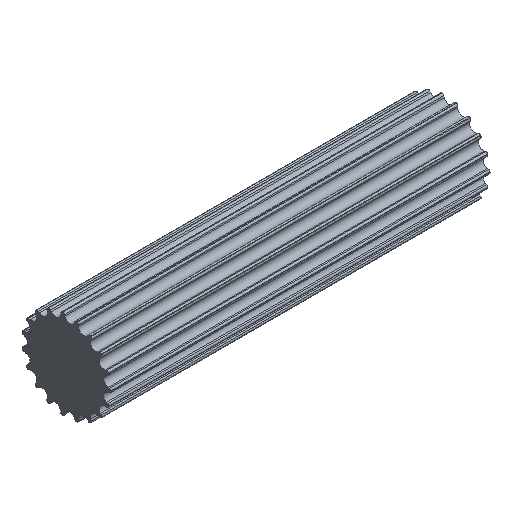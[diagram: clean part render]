
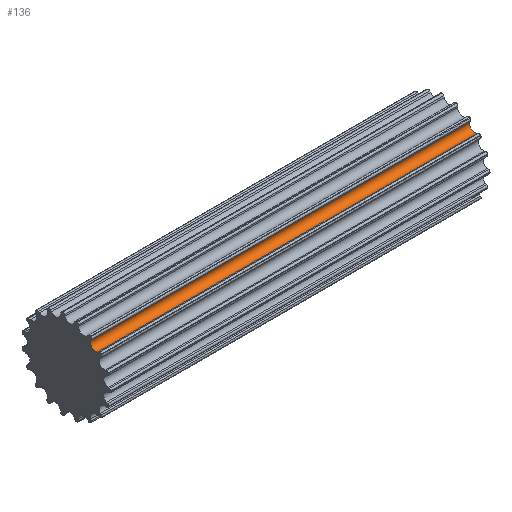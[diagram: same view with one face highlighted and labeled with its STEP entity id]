
A CAD part, isometric view. The second image highlights one B-rep face of the part: STEP entity #136.
In plain terms, the highlighted cylindrical face has radius 2.675 mm (diameter 5.35 mm), a partial arc.
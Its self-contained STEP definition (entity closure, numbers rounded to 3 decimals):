
#136 = ADVANCED_FACE( '', ( #314 ), #315, .F. );
#314 = FACE_OUTER_BOUND( '', #546, .T. );
#315 = CYLINDRICAL_SURFACE( '', #547, 2.675 );
#546 = EDGE_LOOP( '', ( #1303, #1304, #1305, #1306 ) );
#547 = AXIS2_PLACEMENT_3D( '', #1307, #1308, #1309 );
#1303 = ORIENTED_EDGE( '', *, *, #1853, .T. );
#1304 = ORIENTED_EDGE( '', *, *, #1981, .F. );
#1305 = ORIENTED_EDGE( '', *, *, #1768, .F. );
#1306 = ORIENTED_EDGE( '', *, *, #1980, .T. );
#1307 = CARTESIAN_POINT( '', ( 0., -15.52, 16.859 ) );
#1308 = DIRECTION( '', ( -1., 0., 0. ) );
#1309 = DIRECTION( '', ( 0., 0.736, 0.677 ) );
#1768 = EDGE_CURVE( '', #2186, #2188, #2189, .T. );
#1853 = EDGE_CURVE( '', #2352, #2350, #2353, .T. );
#1980 = EDGE_CURVE( '', #2186, #2352, #2550, .T. );
#1981 = EDGE_CURVE( '', #2188, #2350, #2551, .T. );
#2186 = VERTEX_POINT( '', #2785 );
#2188 = VERTEX_POINT( '', #2788 );
#2189 = CIRCLE( '', #2789, 2.675 );
#2350 = VERTEX_POINT( '', #2981 );
#2352 = VERTEX_POINT( '', #2984 );
#2353 = CIRCLE( '', #2985, 2.675 );
#2550 = LINE( '', #3260, #3261 );
#2551 = LINE( '', #3262, #3263 );
#2785 = CARTESIAN_POINT( '', ( 0., -16.739, 14.478 ) );
#2788 = CARTESIAN_POINT( '', ( 0., -13.046, 17.877 ) );
#2789 = AXIS2_PLACEMENT_3D( '', #3540, #3541, #3542 );
#2981 = CARTESIAN_POINT( '', ( 200., -13.046, 17.877 ) );
#2984 = CARTESIAN_POINT( '', ( 200., -16.739, 14.478 ) );
#2985 = AXIS2_PLACEMENT_3D( '', #3731, #3732, #3733 );
#3260 = CARTESIAN_POINT( '', ( 0., -16.739, 14.478 ) );
#3261 = VECTOR( '', #3956, 1000. );
#3262 = CARTESIAN_POINT( '', ( 0., -13.046, 17.877 ) );
#3263 = VECTOR( '', #3957, 1000. );
#3540 = CARTESIAN_POINT( '', ( 0., -15.52, 16.859 ) );
#3541 = DIRECTION( '', ( 1., 0., 0. ) );
#3542 = DIRECTION( '', ( 0., 0.736, 0.677 ) );
#3731 = CARTESIAN_POINT( '', ( 200., -15.52, 16.859 ) );
#3732 = DIRECTION( '', ( 1., 0., 0. ) );
#3733 = DIRECTION( '', ( 0., 0.736, 0.677 ) );
#3956 = DIRECTION( '', ( 1., 0., 0. ) );
#3957 = DIRECTION( '', ( 1., 0., 0. ) );
